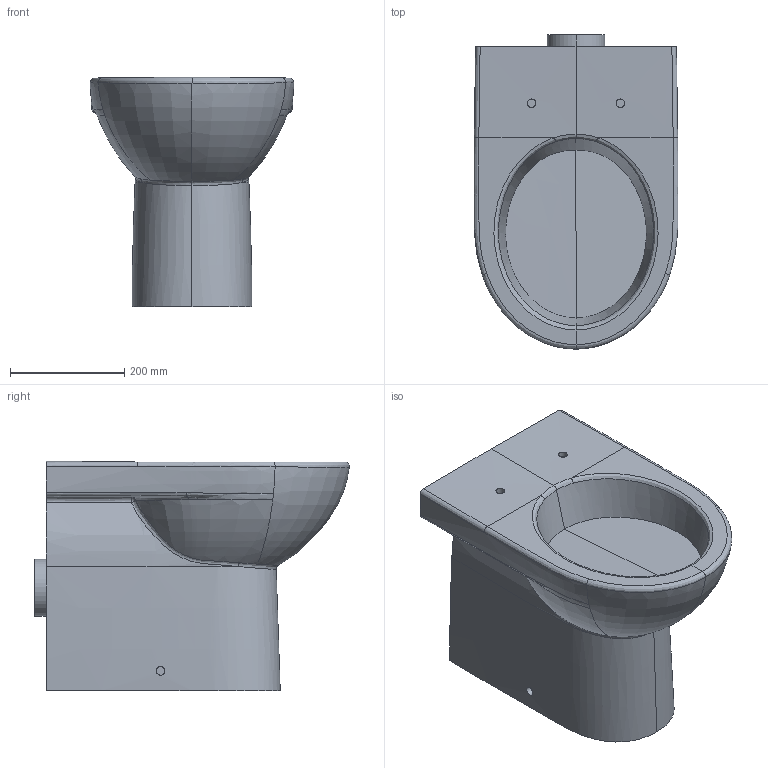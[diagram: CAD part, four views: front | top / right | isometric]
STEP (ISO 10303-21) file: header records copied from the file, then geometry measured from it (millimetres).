
FILE_DESCRIPTION(/* description */ (''),/* implementation_level */ '2;1');
FILE_NAME(/* name */ 'C:\Planerdaten\Export PLA\500.286.01.1\stp\500286.stp',/* time_stamp */ '2020-05-27T08:30:36+02:00',/* author */ ('seihe2'),/* organization */ (''),/* preprocessor_version */ 'ST-DEVELOPER v16.13',/* originating_system */ 'Autodesk Inventor 2018',/* authorisation */ '');
FILE_SCHEMA (('AUTOMOTIVE_DESIGN { 1 0 10303 214 3 1 1 }'));
Length unit declared in the file: millimetre
Products named in the file (1): SWC-T BTW Ge+Snv T53 Abg-h
Bounding box: 356.43 x 549.83 x 401.5 mm (x, y, z)
Volume: 34935738.4 mm3; surface area: 865020.8 mm2
Topology: 1 solids, 1 shells, 61 faces, 144 edges, 82 vertices
Faces by surface type: bspline 48, plane 10, sphere 2, cylinder 1
Full cylindrical faces by diameter (mm): 50 x1
Entity records: 14567 total; most frequent: CARTESIAN_POINT 13442, ORIENTED_EDGE 270, EDGE_CURVE 135, DIRECTION 104, B_SPLINE_CURVE_WITH_KNOTS 87, VERTEX_POINT 81, EDGE_LOOP 66, STYLED_ITEM 62
